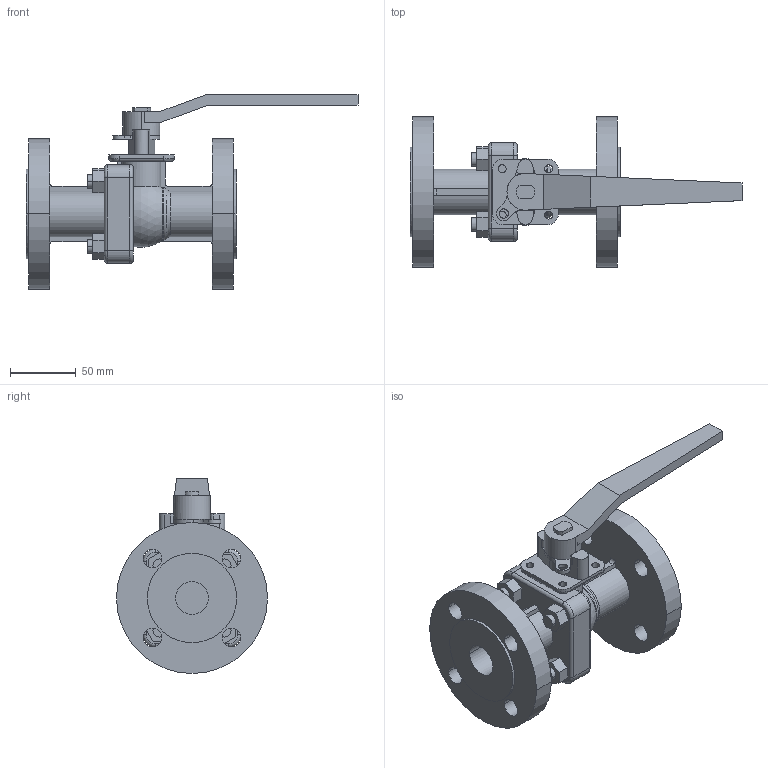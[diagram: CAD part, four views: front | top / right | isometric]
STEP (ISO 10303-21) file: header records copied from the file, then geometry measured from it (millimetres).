
FILE_DESCRIPTION( (''), '2;1');
FILE_NAME ('PC2091.16192.BLV-2SF EN PN16 25A_6822.stp','2026-05-28T09:11:36',(''),(''),'spGate 21.9.4 (****-****-****-****)','','');
FILE_SCHEMA (('AUTOMOTIVE_DESIGN'));
Length unit declared in the file: millimetre
Products named in the file (2): Assembly; BLV-2SFEN 25A
Assembly tree (1 placements, depth 2):
  Assembly
    BLV-2SFEN 25A
Bounding box: 252.9 x 115 x 148.5 mm (x, y, z)
Volume: 583256.7 mm3; surface area: 114518.5 mm2
Topology: 1 solids, 1 shells, 217 faces, 567 edges, 367 vertices
Faces by surface type: plane 100, cylinder 100, bspline 16, sphere 1
Entity records: 11759 total; most frequent: CARTESIAN_POINT 1771, DIRECTION 1152, ORIENTED_EDGE 1134, COLOUR_RGB 785, PRESENTATION_STYLE_ASSIGNMENT 785, STYLED_ITEM 785, EDGE_CURVE 567, DRAUGHTING_PRE_DEFINED_CURVE_FONT 567
